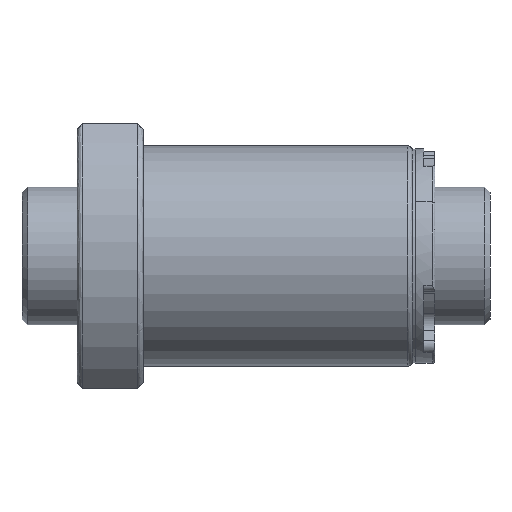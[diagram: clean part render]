
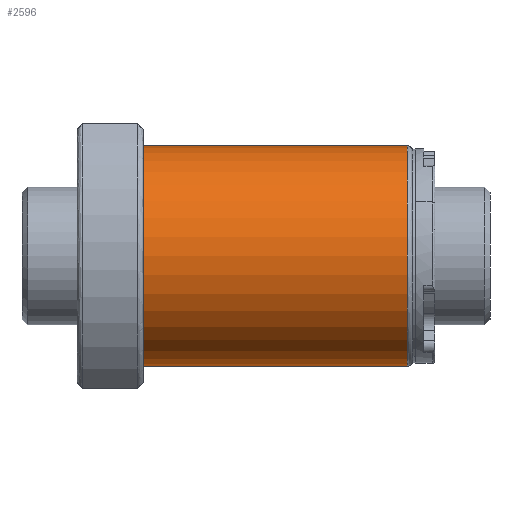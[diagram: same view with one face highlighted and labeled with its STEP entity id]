
A CAD part, front view. The second image highlights one B-rep face of the part: STEP entity #2596.
In plain terms, the highlighted cylindrical face has radius 20 mm (diameter 40 mm), a partial arc.
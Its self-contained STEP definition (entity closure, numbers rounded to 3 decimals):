
#114 = LINE ( 'NONE', #8108, #7907 ) ;
#565 = DIRECTION ( 'NONE',  ( 0., 0., 1. ) ) ;
#729 = EDGE_LOOP ( 'NONE', ( #7998, #6620, #5582, #2967 ) ) ;
#1083 = DIRECTION ( 'NONE',  ( 0., 0., 1. ) ) ;
#1178 = CARTESIAN_POINT ( 'NONE',  ( 12., 0., 20. ) ) ;
#1279 = DIRECTION ( 'NONE',  ( -1., 0., 0. ) ) ;
#1671 = CARTESIAN_POINT ( 'NONE',  ( 0., 0., 20. ) ) ;
#1756 = AXIS2_PLACEMENT_3D ( 'NONE', #7994, #5225, #1083 ) ;
#2003 = VERTEX_POINT ( 'NONE', #1178 ) ;
#2170 = CARTESIAN_POINT ( 'NONE',  ( 12., 0., -20. ) ) ;
#2221 = VERTEX_POINT ( 'NONE', #2170 ) ;
#2293 = CIRCLE ( 'NONE', #1756, 20. ) ;
#2596 = ADVANCED_FACE ( 'NONE', ( #6651 ), #6109, .T. ) ;
#2967 = ORIENTED_EDGE ( 'NONE', *, *, #4849, .T. ) ;
#3046 = VERTEX_POINT ( 'NONE', #3432 ) ;
#3432 = CARTESIAN_POINT ( 'NONE',  ( 60., 0., -20. ) ) ;
#4087 = CARTESIAN_POINT ( 'NONE',  ( 0., 0., 0. ) ) ;
#4208 = EDGE_CURVE ( 'NONE', #3046, #7706, #5863, .T. ) ;
#4849 = EDGE_CURVE ( 'NONE', #2003, #2221, #2293, .T. ) ;
#5158 = AXIS2_PLACEMENT_3D ( 'NONE', #4087, #8894, #5483 ) ;
#5225 = DIRECTION ( 'NONE',  ( 1., 0., 0. ) ) ;
#5483 = DIRECTION ( 'NONE',  ( 0., 0., 1. ) ) ;
#5582 = ORIENTED_EDGE ( 'NONE', *, *, #6266, .T. ) ;
#5863 = CIRCLE ( 'NONE', #6846, 20. ) ;
#6109 = CYLINDRICAL_SURFACE ( 'NONE', #5158, 20. ) ;
#6266 = EDGE_CURVE ( 'NONE', #7706, #2003, #8134, .T. ) ;
#6491 = EDGE_CURVE ( 'NONE', #3046, #2221, #114, .T. ) ;
#6620 = ORIENTED_EDGE ( 'NONE', *, *, #4208, .T. ) ;
#6651 = FACE_OUTER_BOUND ( 'NONE', #729, .T. ) ;
#6815 = VECTOR ( 'NONE', #7927, 1000. ) ;
#6833 = CARTESIAN_POINT ( 'NONE',  ( 60., 0., 0. ) ) ;
#6846 = AXIS2_PLACEMENT_3D ( 'NONE', #6833, #8916, #565 ) ;
#7706 = VERTEX_POINT ( 'NONE', #8478 ) ;
#7907 = VECTOR ( 'NONE', #1279, 1000. ) ;
#7927 = DIRECTION ( 'NONE',  ( -1., 0., 0. ) ) ;
#7994 = CARTESIAN_POINT ( 'NONE',  ( 12., 0., 0. ) ) ;
#7998 = ORIENTED_EDGE ( 'NONE', *, *, #6491, .F. ) ;
#8108 = CARTESIAN_POINT ( 'NONE',  ( 0., 0., -20. ) ) ;
#8134 = LINE ( 'NONE', #1671, #6815 ) ;
#8478 = CARTESIAN_POINT ( 'NONE',  ( 60., 0., 20. ) ) ;
#8894 = DIRECTION ( 'NONE',  ( -1., 0., 0. ) ) ;
#8916 = DIRECTION ( 'NONE',  ( -1., 0., 0. ) ) ;
